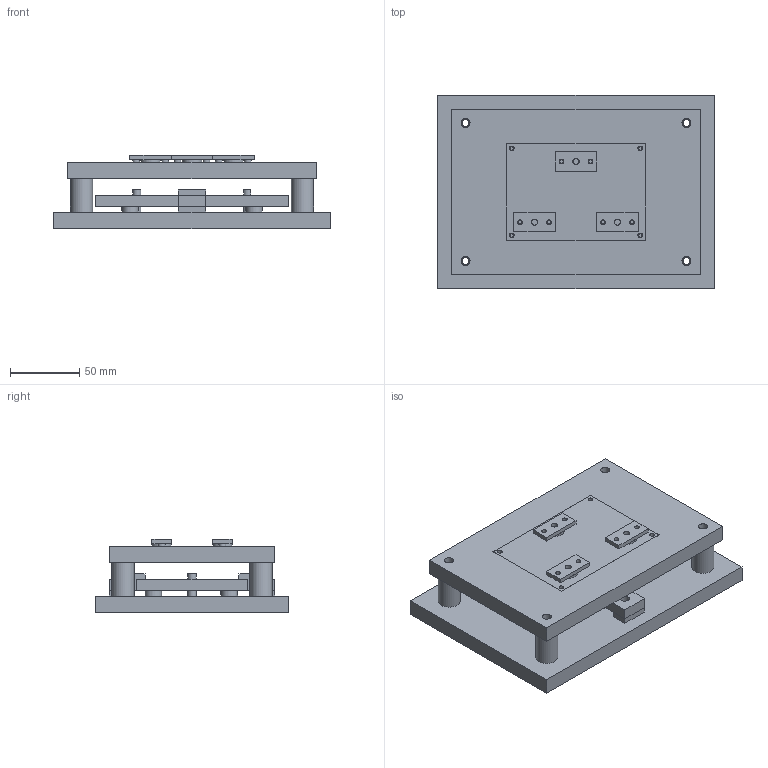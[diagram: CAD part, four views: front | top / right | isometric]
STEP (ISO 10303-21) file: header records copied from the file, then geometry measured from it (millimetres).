
FILE_DESCRIPTION(('Open CASCADE Model'),'2;1');
FILE_NAME('Open CASCADE Shape Model','2026-10-28T05:16:21',('Author'),( 'Open CASCADE'),'Open CASCADE STEP processor 7.8','Open CASCADE 7.8' ,'Unknown');
FILE_SCHEMA(('AUTOMOTIVE_DESIGN { 1 0 10303 214 1 1 1 1 }'));
Length unit declared in the file: millimetre
Products named in the file (24): Open CASCADE STEP translator 7.8 36; Open CASCADE STEP translator 7.8 36.1; Open CASCADE STEP translator 7.8 36.2; Open CASCADE STEP translator 7.8 36.3; Open CASCADE STEP translator 7.8 36.4; Open CASCADE STEP translator 7.8 36.5; Open CASCADE STEP translator 7.8 36.6; Open CASCADE STEP translator 7.8 36.7; Open CASCADE STEP translator 7.8 36.8; Open CASCADE STEP translator 7.8 36.9; Open CASCADE STEP translator 7.8 36.10; Open CASCADE STEP translator 7.8 36.11; Open CASCADE STEP translator 7.8 36.12; Open CASCADE STEP translator 7.8 36.13; Open CASCADE STEP translator 7.8 36.14; Open CASCADE STEP translator 7.8 36.15; Open CASCADE STEP translator 7.8 36.16; Open CASCADE STEP translator 7.8 36.17; Open CASCADE STEP translator 7.8 36.18; Open CASCADE STEP translator 7.8 36.19; Open CASCADE STEP translator 7.8 36.20; Open CASCADE STEP translator 7.8 36.21; Open CASCADE STEP translator 7.8 36.22; Open CASCADE STEP translator 7.8 36.23
Assembly tree (23 placements, depth 2):
  Open CASCADE STEP translator 7.8 36
    Open CASCADE STEP translator 7.8 36.1
    Open CASCADE STEP translator 7.8 36.2
    Open CASCADE STEP translator 7.8 36.3
    Open CASCADE STEP translator 7.8 36.4
    Open CASCADE STEP translator 7.8 36.5
    Open CASCADE STEP translator 7.8 36.6
    Open CASCADE STEP translator 7.8 36.7
    Open CASCADE STEP translator 7.8 36.8
    Open CASCADE STEP translator 7.8 36.9
    Open CASCADE STEP translator 7.8 36.10
    Open CASCADE STEP translator 7.8 36.11
    Open CASCADE STEP translator 7.8 36.12
    Open CASCADE STEP translator 7.8 36.13
    Open CASCADE STEP translator 7.8 36.14
    Open CASCADE STEP translator 7.8 36.15
    Open CASCADE STEP translator 7.8 36.16
    Open CASCADE STEP translator 7.8 36.17
    Open CASCADE STEP translator 7.8 36.18
    Open CASCADE STEP translator 7.8 36.19
    Open CASCADE STEP translator 7.8 36.20
    Open CASCADE STEP translator 7.8 36.21
    Open CASCADE STEP translator 7.8 36.22
    Open CASCADE STEP translator 7.8 36.23
Bounding box: 200 x 140 x 53 mm (x, y, z)
Volume: 692410.7 mm3; surface area: 175153 mm2
Topology: 23 solids, 23 shells, 199 faces, 411 edges, 274 vertices
Faces by surface type: plane 126, cylinder 73
Full cylindrical faces by diameter (mm): 2.5 x10, 3.4 x10, 4.2 x3, 4.5 x3, 5 x16, 5.98 x3, 6.03 x2, 6.5 x6, 10 x6, 12 x3, 14 x3, 16 x4
Entity records: 11178 total; most frequent: DIRECTION 1797, CARTESIAN_POINT 1778, LINE 917, VECTOR 917, ORIENTED_EDGE 822, PCURVE 822, DEFINITIONAL_REPRESENTATION 822, EDGE_CURVE 411
